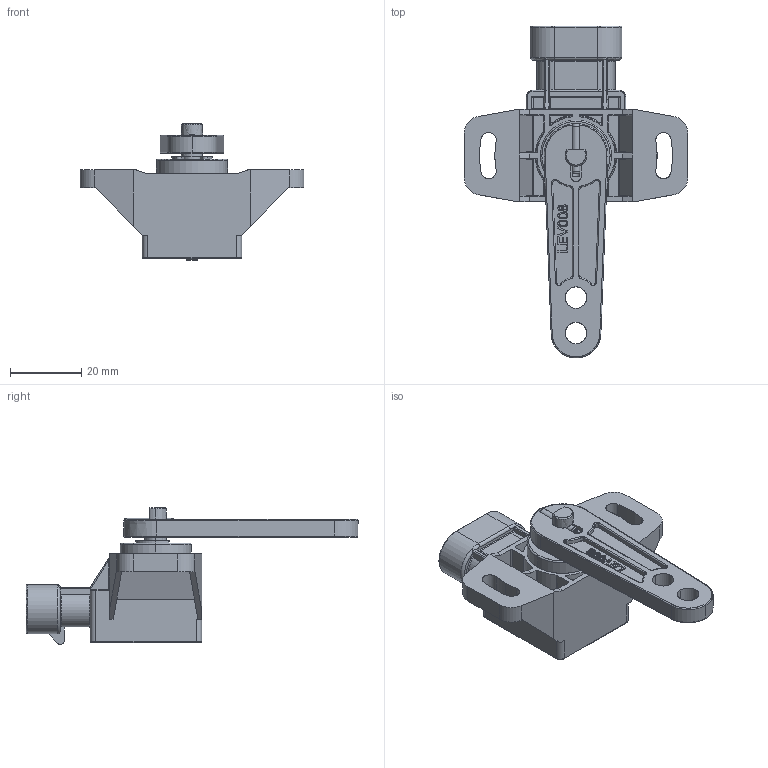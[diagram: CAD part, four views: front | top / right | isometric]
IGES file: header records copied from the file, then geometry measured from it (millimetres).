
Start section: SolidWorks IGES file using analytic representation for surfaces
Global section: file name: \\srv4gefran\dir-cat\Disegni Catalogo\Mobile\GR3P\GR3P 50\3D\Solidworks 2024\GR3PA S5E1LS xxx xxxx B0.IGS; native system: SolidWorks 2024; preprocessor: SolidWorks 2024; author: Loda-w1; date: 241219.161415; units: millimetre
Bounding box: 63 x 93.5 x 38.47 mm (x, y, z)
Surface area: 16379 mm2 (no closed solid volume)
Topology: 0 solids, 0 shells, 749 faces, 7078 edges, 7038 vertices
Faces by surface type: bspline 426, revolution 323
